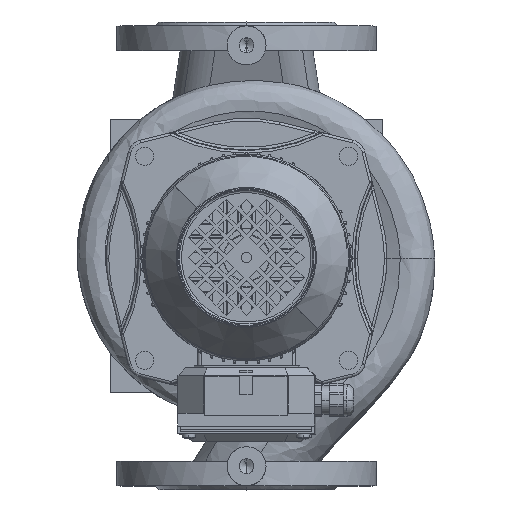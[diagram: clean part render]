
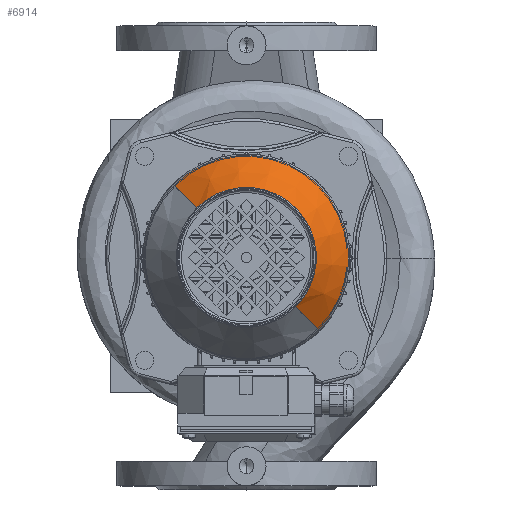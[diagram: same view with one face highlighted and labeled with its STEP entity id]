
A CAD part, top view. The second image highlights one B-rep face of the part: STEP entity #6914.
In plain terms, the highlighted conical face has half-angle 37 degrees and reference radius 53.876 mm.
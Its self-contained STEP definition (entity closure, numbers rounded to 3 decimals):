
#6914=ADVANCED_FACE('NONE',(#16779),#16780,.T.);
#16779=FACE_OUTER_BOUND('',#39356,.T.);
#16780=CONICAL_SURFACE('',#39357,53.876,0.646);
#39356=EDGE_LOOP('',(#58262,#58263,#58264,#58265));
#39357=AXIS2_PLACEMENT_3D('',#58266,#58267,#58268);
#58262=ORIENTED_EDGE('',*,*,#67147,.F.);
#58263=ORIENTED_EDGE('',*,*,#67145,.F.);
#58264=ORIENTED_EDGE('',*,*,#67148,.F.);
#58265=ORIENTED_EDGE('',*,*,#67149,.T.);
#58266=CARTESIAN_POINT('',(0.0,87.403,0.0));
#58267=DIRECTION('',(-0.0,-1.0,-0.0));
#58268=DIRECTION('',(0.0,0.0,-1.0));
#67145=EDGE_CURVE('NONE',#81063,#81065,#81066,.T.);
#67147=EDGE_CURVE('',#81065,#81068,#81069,.T.);
#67148=EDGE_CURVE('',#81070,#81063,#81071,.T.);
#67149=EDGE_CURVE('NONE',#81070,#81068,#81072,.T.);
#81063=VERTEX_POINT('',#106998);
#81065=VERTEX_POINT('NONE',#107000);
#81066=CIRCLE('',#107001,53.876);
#81068=VERTEX_POINT('NONE',#107003);
#81069=LINE('',#107004,#107005);
#81070=VERTEX_POINT('',#107006);
#81071=LINE('',#107007,#107008);
#81072=CIRCLE('',#107009,78.592);
#106998=CARTESIAN_POINT('',(0.,87.403,53.876));
#107000=CARTESIAN_POINT('',(0.,87.403,-53.876));
#107001=AXIS2_PLACEMENT_3D('',#118229,#118230,#118231);
#107003=CARTESIAN_POINT('',(0.0,54.603,-78.592));
#107004=CARTESIAN_POINT('',(0.,87.403,-53.876));
#107005=VECTOR('',#118235,1.0);
#107006=CARTESIAN_POINT('',(0.,54.603,78.592));
#107007=CARTESIAN_POINT('',(0.,87.403,53.876));
#107008=VECTOR('',#118236,1.0);
#107009=AXIS2_PLACEMENT_3D('',#118237,#118238,#118239);
#118229=CARTESIAN_POINT('',(0.0,87.403,0.0));
#118230=DIRECTION('',(-0.0,1.0,0.0));
#118231=DIRECTION('',(0.0,0.0,1.0));
#118235=DIRECTION('',(0.,-0.799,-0.602));
#118236=DIRECTION('',(0.,0.799,-0.602));
#118237=CARTESIAN_POINT('',(0.0,54.603,0.0));
#118238=DIRECTION('',(-0.0,1.0,0.0));
#118239=DIRECTION('',(0.0,0.0,1.0));
